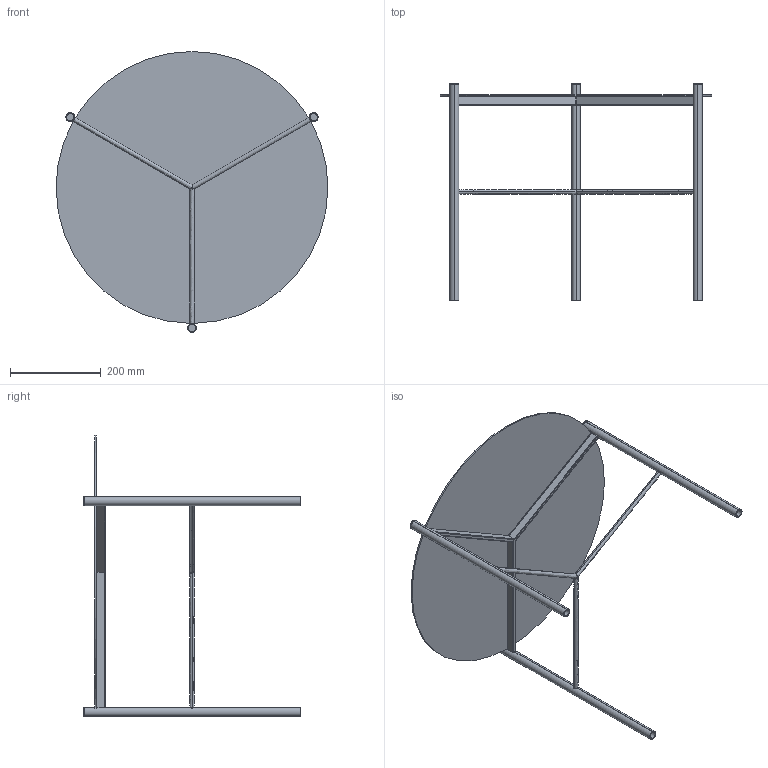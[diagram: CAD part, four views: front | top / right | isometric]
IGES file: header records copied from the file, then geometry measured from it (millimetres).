
Start section: SolidWorks IGES file using analytic representation for surfaces
Global section: file name: Y:\eforma\TECNICO\SOLIDWORKS\E-FORMA\2-TAVOLINI\JACK\02 parts\J301S.IGS; native system: SolidWorks 2022; preprocessor: SolidWorks 2022; author: eforma.tech; date: 240806.132933; units: millimetre
Bounding box: 599.97 x 479 x 620.07 mm (x, y, z)
Volume: 1082659.5 mm3; surface area: 877824.7 mm2
Topology: 13 solids, 13 shells, 121 faces, 287 edges, 190 vertices
Faces by surface type: revolution 71, plane 50
